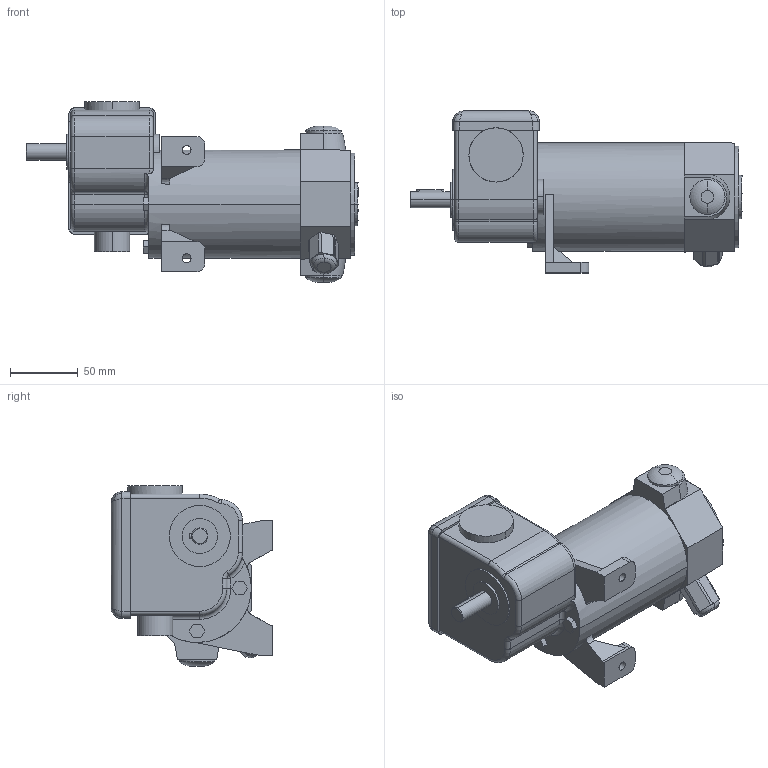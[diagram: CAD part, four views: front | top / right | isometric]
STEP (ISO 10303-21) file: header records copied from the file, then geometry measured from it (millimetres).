
FILE_DESCRIPTION(('OneSpaceDesigner STEP Export'),'2;1');
FILE_NAME('EPG12_G23-10.stp','2008-07-16T13:11:05',(''),(''),'OneSpace Designer STEP processor (Jan. 2003) for AP214(CD)(Solid Model)','OneSpace Designer 12.01D 09-Jul-2004 (C) CoCreate Software GmbH','');
FILE_SCHEMA(('AUTOMOTIVE_DESIGN_CC2 {1 2 10303 214 -1 1 5 1}'));
Length unit declared in the file: millimetre
Products named in the file (2): EPG12_G23-10
Assembly tree (1 placements, depth 2):
  EPG12_G23-10
    EPG12_G23-10
Bounding box: 245 x 119.5 x 133 mm (x, y, z)
Volume: 1337697.3 mm3; surface area: 94885.6 mm2
Topology: 1 solids, 1 shells, 188 faces, 470 edges, 299 vertices
Faces by surface type: plane 86, cylinder 63, torus 20, bspline 16, cone 2, sphere 1
Entity records: 9606 total; most frequent: CARTESIAN_POINT 5339, ORIENTED_EDGE 938, DIRECTION 788, EDGE_CURVE 469, VERTEX_POINT 299, AXIS2_PLACEMENT_3D 271, VECTOR 246, LINE 246
